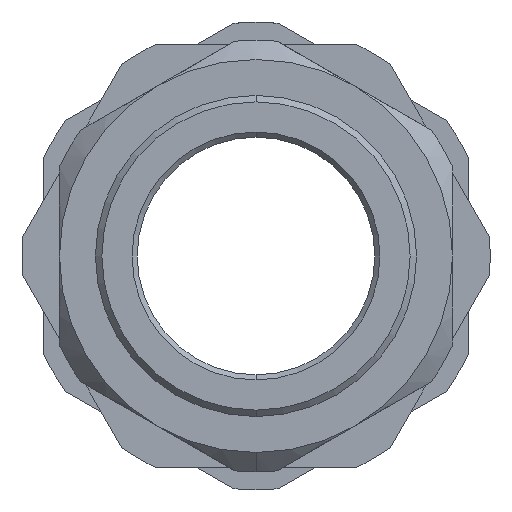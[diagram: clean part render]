
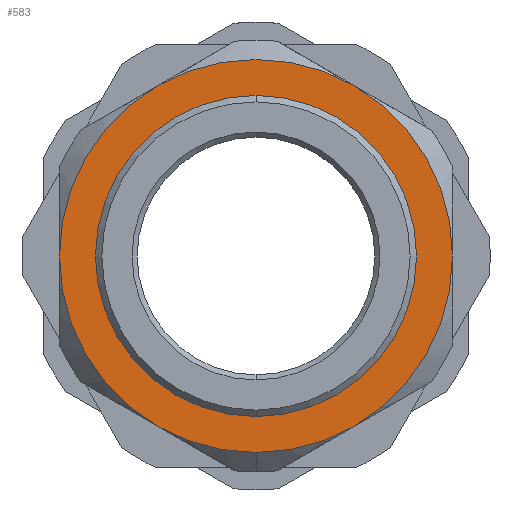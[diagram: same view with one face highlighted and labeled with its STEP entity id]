
A CAD part, front view. The second image highlights one B-rep face of the part: STEP entity #583.
In plain terms, the highlighted planar face has unit normal (0, -1, 0).
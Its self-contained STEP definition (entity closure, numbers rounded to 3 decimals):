
#26 = EDGE_LOOP ( 'NONE', ( #95, #97 ) ) ;
#91 = ORIENTED_EDGE ( 'NONE', *, *, #452, .T. ) ;
#94 = ORIENTED_EDGE ( 'NONE', *, *, #501, .T. ) ;
#95 = ORIENTED_EDGE ( 'NONE', *, *, #698, .F. ) ;
#97 = ORIENTED_EDGE ( 'NONE', *, *, #544, .F. ) ;
#101 = ORIENTED_EDGE ( 'NONE', *, *, #502, .T. ) ;
#102 = ORIENTED_EDGE ( 'NONE', *, *, #541, .T. ) ;
#103 = ORIENTED_EDGE ( 'NONE', *, *, #598, .T. ) ;
#104 = ORIENTED_EDGE ( 'NONE', *, *, #517, .T. ) ;
#105 = ORIENTED_EDGE ( 'NONE', *, *, #542, .T. ) ;
#276 = EDGE_LOOP ( 'NONE', ( #94, #91, #102, #101, #105, #103, #104 ) ) ;
#452 = EDGE_CURVE ( 'NONE', #2141, #1784, #1243, .T. ) ;
#501 = EDGE_CURVE ( 'NONE', #2092, #2141, #1216, .T. ) ;
#502 = EDGE_CURVE ( 'NONE', #1767, #2047, #1215, .T. ) ;
#517 = EDGE_CURVE ( 'NONE', #1617, #2092, #1208, .T. ) ;
#541 = EDGE_CURVE ( 'NONE', #1784, #1767, #1200, .T. ) ;
#542 = EDGE_CURVE ( 'NONE', #2047, #2076, #1199, .T. ) ;
#544 = EDGE_CURVE ( 'NONE', #2000, #2063, #1198, .T. ) ;
#583 = ADVANCED_FACE ( 'NONE', ( #955, #957 ), #1538, .F. ) ;
#598 = EDGE_CURVE ( 'NONE', #2076, #1617, #1184, .T. ) ;
#698 = EDGE_CURVE ( 'NONE', #2063, #2000, #1140, .T. ) ;
#731 = AXIS2_PLACEMENT_3D ( 'NONE', #2251, #2244, #2243 ) ;
#911 = AXIS2_PLACEMENT_3D ( 'NONE', #1465, #1457, #1456 ) ;
#934 = AXIS2_PLACEMENT_3D ( 'NONE', #1847, #1999, #1461 ) ;
#948 = AXIS2_PLACEMENT_3D ( 'NONE', #1537, #1536, #1535 ) ;
#955 = FACE_BOUND ( 'NONE', #26, .T. ) ;
#957 = FACE_OUTER_BOUND ( 'NONE', #276, .T. ) ;
#1027 = AXIS2_PLACEMENT_3D ( 'NONE', #1741, #1737, #1736 ) ;
#1031 = AXIS2_PLACEMENT_3D ( 'NONE', #1750, #1746, #1745 ) ;
#1033 = AXIS2_PLACEMENT_3D ( 'NONE', #1744, #1743, #1742 ) ;
#1051 = AXIS2_PLACEMENT_3D ( 'NONE', #1922, #1921, #1920 ) ;
#1075 = AXIS2_PLACEMENT_3D ( 'NONE', #1991, #1986, #1985 ) ;
#1077 = AXIS2_PLACEMENT_3D ( 'NONE', #1984, #1983, #1982 ) ;
#1140 = CIRCLE ( 'NONE', #731, 12.5 ) ;
#1184 = CIRCLE ( 'NONE', #911, 15.3 ) ;
#1198 = CIRCLE ( 'NONE', #1027, 12.5 ) ;
#1199 = CIRCLE ( 'NONE', #1033, 15.3 ) ;
#1200 = CIRCLE ( 'NONE', #1031, 15.3 ) ;
#1208 = CIRCLE ( 'NONE', #1051, 15.3 ) ;
#1215 = CIRCLE ( 'NONE', #1077, 15.3 ) ;
#1216 = CIRCLE ( 'NONE', #1075, 15.3 ) ;
#1243 = CIRCLE ( 'NONE', #934, 15.3 ) ;
#1292 = CARTESIAN_POINT ( 'NONE',  ( 7.65, 1., 13.25 ) ) ;
#1298 = CARTESIAN_POINT ( 'NONE',  ( 15.3, 1., 0. ) ) ;
#1309 = CARTESIAN_POINT ( 'NONE',  ( 0., 1., -15.3 ) ) ;
#1315 = CARTESIAN_POINT ( 'NONE',  ( 0., 1., -12.5 ) ) ;
#1323 = CARTESIAN_POINT ( 'NONE',  ( -7.65, 1., -13.25 ) ) ;
#1346 = CARTESIAN_POINT ( 'NONE',  ( 0., 1., 12.5 ) ) ;
#1362 = CARTESIAN_POINT ( 'NONE',  ( -7.65, 1., 13.25 ) ) ;
#1456 = DIRECTION ( 'NONE',  ( 0., 0., -1. ) ) ;
#1457 = DIRECTION ( 'NONE',  ( 0., -1., 0. ) ) ;
#1461 = DIRECTION ( 'NONE',  ( 0., 0., -1. ) ) ;
#1465 = CARTESIAN_POINT ( 'NONE',  ( 0., 1., 0. ) ) ;
#1535 = DIRECTION ( 'NONE',  ( 0., 0., 1. ) ) ;
#1536 = DIRECTION ( 'NONE',  ( 0., 1., 0. ) ) ;
#1537 = CARTESIAN_POINT ( 'NONE',  ( -16.8, 1., 0. ) ) ;
#1538 = PLANE ( 'NONE',  #948 ) ;
#1617 = VERTEX_POINT ( 'NONE', #2202 ) ;
#1736 = DIRECTION ( 'NONE',  ( 0., 0., -1. ) ) ;
#1737 = DIRECTION ( 'NONE',  ( 0., -1., 0. ) ) ;
#1741 = CARTESIAN_POINT ( 'NONE',  ( 0., 1., 0. ) ) ;
#1742 = DIRECTION ( 'NONE',  ( 0., 0., -1. ) ) ;
#1743 = DIRECTION ( 'NONE',  ( 0., -1., 0. ) ) ;
#1744 = CARTESIAN_POINT ( 'NONE',  ( 0., 1., 0. ) ) ;
#1745 = DIRECTION ( 'NONE',  ( 0., 0., -1. ) ) ;
#1746 = DIRECTION ( 'NONE',  ( 0., -1., 0. ) ) ;
#1750 = CARTESIAN_POINT ( 'NONE',  ( 0., 1., 0. ) ) ;
#1767 = VERTEX_POINT ( 'NONE', #2160 ) ;
#1784 = VERTEX_POINT ( 'NONE', #1362 ) ;
#1847 = CARTESIAN_POINT ( 'NONE',  ( 0., 1., 0. ) ) ;
#1920 = DIRECTION ( 'NONE',  ( 0., 0., -1. ) ) ;
#1921 = DIRECTION ( 'NONE',  ( 0., -1., 0. ) ) ;
#1922 = CARTESIAN_POINT ( 'NONE',  ( 0., 1., 0. ) ) ;
#1982 = DIRECTION ( 'NONE',  ( 0., 0., -1. ) ) ;
#1983 = DIRECTION ( 'NONE',  ( 0., -1., 0. ) ) ;
#1984 = CARTESIAN_POINT ( 'NONE',  ( 0., 1., 0. ) ) ;
#1985 = DIRECTION ( 'NONE',  ( 0., 0., -1. ) ) ;
#1986 = DIRECTION ( 'NONE',  ( 0., -1., 0. ) ) ;
#1991 = CARTESIAN_POINT ( 'NONE',  ( 0., 1., 0. ) ) ;
#1999 = DIRECTION ( 'NONE',  ( 0., -1., 0. ) ) ;
#2000 = VERTEX_POINT ( 'NONE', #1346 ) ;
#2047 = VERTEX_POINT ( 'NONE', #1323 ) ;
#2063 = VERTEX_POINT ( 'NONE', #1315 ) ;
#2076 = VERTEX_POINT ( 'NONE', #1309 ) ;
#2092 = VERTEX_POINT ( 'NONE', #1298 ) ;
#2141 = VERTEX_POINT ( 'NONE', #1292 ) ;
#2160 = CARTESIAN_POINT ( 'NONE',  ( -15.3, 1., 0. ) ) ;
#2202 = CARTESIAN_POINT ( 'NONE',  ( 7.65, 1., -13.25 ) ) ;
#2243 = DIRECTION ( 'NONE',  ( 0., 0., -1. ) ) ;
#2244 = DIRECTION ( 'NONE',  ( 0., -1., 0. ) ) ;
#2251 = CARTESIAN_POINT ( 'NONE',  ( 0., 1., 0. ) ) ;
